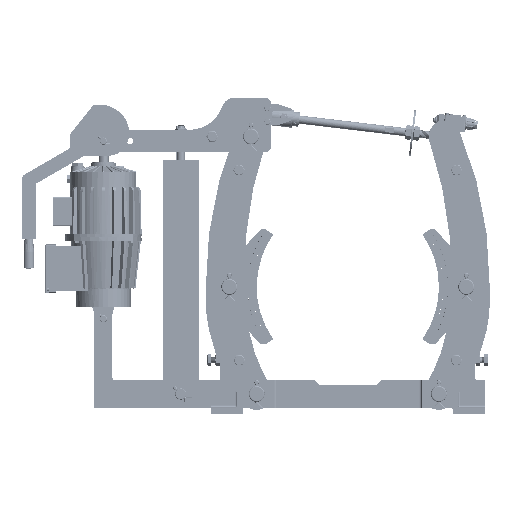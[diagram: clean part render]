
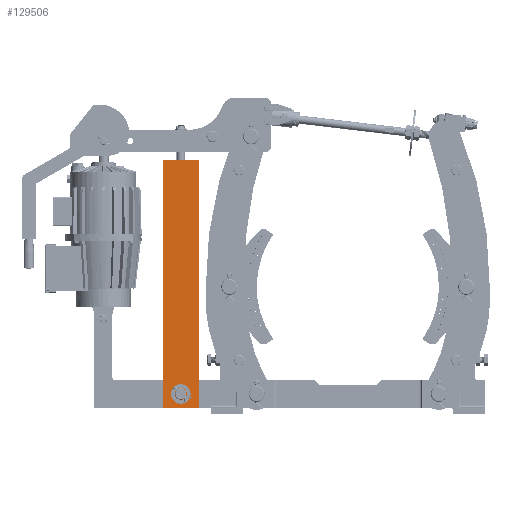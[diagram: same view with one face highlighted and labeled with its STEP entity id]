
A CAD part, left-side view. The second image highlights one B-rep face of the part: STEP entity #129506.
In plain terms, the highlighted planar face has unit normal (-1, 0, 0).
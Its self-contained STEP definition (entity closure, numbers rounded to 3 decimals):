
#129345=DIRECTION('',(0.,-1.,0.));
#129346=VECTOR('',#129345,80.);
#129347=CARTESIAN_POINT('',(-115.,706.503,559.));
#129348=LINE('',#129347,#129346);
#129352=DIRECTION('',(0.,0.,-1.));
#129353=VECTOR('',#129352,544.);
#129354=CARTESIAN_POINT('',(-115.,626.503,559.));
#129355=LINE('',#129354,#129353);
#129359=DIRECTION('',(0.,1.,0.));
#129360=VECTOR('',#129359,80.);
#129361=CARTESIAN_POINT('',(-115.,626.503,15.));
#129362=LINE('',#129361,#129360);
#129366=DIRECTION('',(0.,0.,1.));
#129367=VECTOR('',#129366,544.);
#129368=CARTESIAN_POINT('',(-115.,706.503,15.));
#129369=LINE('',#129368,#129367);
#129373=CARTESIAN_POINT('',(-115.,666.503,57.5));
#129374=CARTESIAN_POINT('',(-115.,666.889,57.5));
#129375=CARTESIAN_POINT('',(-115.,667.658,57.464));
#129376=CARTESIAN_POINT('',(-115.,668.803,57.305));
#129377=CARTESIAN_POINT('',(-115.,669.929,57.04));
#129378=CARTESIAN_POINT('',(-115.,671.024,56.673));
#129379=CARTESIAN_POINT('',(-115.,672.083,56.205));
#129380=CARTESIAN_POINT('',(-115.,673.094,55.642));
#129381=CARTESIAN_POINT('',(-115.,674.048,54.988));
#129382=CARTESIAN_POINT('',(-115.,674.938,54.249));
#129383=CARTESIAN_POINT('',(-115.,675.755,53.431));
#129384=CARTESIAN_POINT('',(-115.,676.493,52.542));
#129385=CARTESIAN_POINT('',(-115.,677.147,51.588));
#129386=CARTESIAN_POINT('',(-115.,677.709,50.578));
#129387=CARTESIAN_POINT('',(-115.,678.176,49.52));
#129388=CARTESIAN_POINT('',(-115.,678.543,48.425));
#129389=CARTESIAN_POINT('',(-115.,678.807,47.301));
#129390=CARTESIAN_POINT('',(-115.,678.967,46.155));
#129391=CARTESIAN_POINT('',(-115.,679.003,45.386));
#129392=CARTESIAN_POINT('',(-115.,679.003,45.));
#129397=CARTESIAN_POINT('',(-115.,679.003,45.));
#129398=CARTESIAN_POINT('',(-115.,679.003,44.614));
#129399=CARTESIAN_POINT('',(-115.,678.967,43.845));
#129400=CARTESIAN_POINT('',(-115.,678.807,42.699));
#129401=CARTESIAN_POINT('',(-115.,678.543,41.574));
#129402=CARTESIAN_POINT('',(-115.,678.175,40.478));
#129403=CARTESIAN_POINT('',(-115.,677.708,39.419));
#129404=CARTESIAN_POINT('',(-115.,677.145,38.409));
#129405=CARTESIAN_POINT('',(-115.,676.491,37.454));
#129406=CARTESIAN_POINT('',(-115.,675.752,36.565));
#129407=CARTESIAN_POINT('',(-115.,674.934,35.748));
#129408=CARTESIAN_POINT('',(-115.,674.045,35.009));
#129409=CARTESIAN_POINT('',(-115.,673.091,34.356));
#129410=CARTESIAN_POINT('',(-115.,672.081,33.794));
#129411=CARTESIAN_POINT('',(-115.,671.023,33.327));
#129412=CARTESIAN_POINT('',(-115.,669.928,32.96));
#129413=CARTESIAN_POINT('',(-115.,668.804,32.695));
#129414=CARTESIAN_POINT('',(-115.,667.658,32.536));
#129415=CARTESIAN_POINT('',(-115.,666.889,32.5));
#129416=CARTESIAN_POINT('',(-115.,666.503,32.5));
#129421=CARTESIAN_POINT('',(-115.,666.503,32.5));
#129422=CARTESIAN_POINT('',(-115.,666.117,32.5));
#129423=CARTESIAN_POINT('',(-115.,665.348,32.536));
#129424=CARTESIAN_POINT('',(-115.,664.202,32.695));
#129425=CARTESIAN_POINT('',(-115.,663.077,32.96));
#129426=CARTESIAN_POINT('',(-115.,661.981,33.327));
#129427=CARTESIAN_POINT('',(-115.,660.922,33.795));
#129428=CARTESIAN_POINT('',(-115.,659.911,34.358));
#129429=CARTESIAN_POINT('',(-115.,658.957,35.012));
#129430=CARTESIAN_POINT('',(-115.,658.068,35.751));
#129431=CARTESIAN_POINT('',(-115.,657.25,36.569));
#129432=CARTESIAN_POINT('',(-115.,656.512,37.458));
#129433=CARTESIAN_POINT('',(-115.,655.859,38.412));
#129434=CARTESIAN_POINT('',(-115.,655.296,39.422));
#129435=CARTESIAN_POINT('',(-115.,654.83,40.48));
#129436=CARTESIAN_POINT('',(-115.,654.463,41.575));
#129437=CARTESIAN_POINT('',(-115.,654.198,42.699));
#129438=CARTESIAN_POINT('',(-115.,654.038,43.845));
#129439=CARTESIAN_POINT('',(-115.,654.003,44.614));
#129440=CARTESIAN_POINT('',(-115.,654.003,45.));
#129445=CARTESIAN_POINT('',(-115.,654.003,45.));
#129446=CARTESIAN_POINT('',(-115.,654.003,45.386));
#129447=CARTESIAN_POINT('',(-115.,654.038,46.155));
#129448=CARTESIAN_POINT('',(-115.,654.198,47.301));
#129449=CARTESIAN_POINT('',(-115.,654.463,48.426));
#129450=CARTESIAN_POINT('',(-115.,654.83,49.522));
#129451=CARTESIAN_POINT('',(-115.,655.298,50.581));
#129452=CARTESIAN_POINT('',(-115.,655.861,51.591));
#129453=CARTESIAN_POINT('',(-115.,656.515,52.546));
#129454=CARTESIAN_POINT('',(-115.,657.254,53.435));
#129455=CARTESIAN_POINT('',(-115.,658.071,54.252));
#129456=CARTESIAN_POINT('',(-115.,658.961,54.991));
#129457=CARTESIAN_POINT('',(-115.,659.915,55.644));
#129458=CARTESIAN_POINT('',(-115.,660.925,56.206));
#129459=CARTESIAN_POINT('',(-115.,661.983,56.673));
#129460=CARTESIAN_POINT('',(-115.,663.077,57.04));
#129461=CARTESIAN_POINT('',(-115.,664.202,57.305));
#129462=CARTESIAN_POINT('',(-115.,665.347,57.464));
#129463=CARTESIAN_POINT('',(-115.,666.116,57.5));
#129464=CARTESIAN_POINT('',(-115.,666.503,57.5));
#129469=CARTESIAN_POINT('',(-115.,706.503,559.));
#129470=CARTESIAN_POINT('',(-115.,626.503,559.));
#129471=VERTEX_POINT('',#129469);
#129472=VERTEX_POINT('',#129470);
#129473=CARTESIAN_POINT('',(-115.,626.503,15.));
#129474=VERTEX_POINT('',#129473);
#129475=CARTESIAN_POINT('',(-115.,706.503,15.));
#129476=VERTEX_POINT('',#129475);
#129477=VERTEX_POINT('',#129373);
#129478=VERTEX_POINT('',#129392);
#129479=VERTEX_POINT('',#129416);
#129480=VERTEX_POINT('',#129440);
#129481=CARTESIAN_POINT('',(-115.,666.503,287.));
#129482=DIRECTION('',(1.,0.,0.));
#129483=DIRECTION('',(0.,0.,-1.));
#129484=AXIS2_PLACEMENT_3D('',#129481,#129482,#129483);
#129485=PLANE('',#129484);
#129487=ORIENTED_EDGE('',*,*,#129486,.T.);
#129489=ORIENTED_EDGE('',*,*,#129488,.T.);
#129491=ORIENTED_EDGE('',*,*,#129490,.T.);
#129493=ORIENTED_EDGE('',*,*,#129492,.T.);
#129494=EDGE_LOOP('',(#129487,#129489,#129491,#129493));
#129495=FACE_OUTER_BOUND('',#129494,.F.);
#129497=ORIENTED_EDGE('',*,*,#129496,.T.);
#129499=ORIENTED_EDGE('',*,*,#129498,.T.);
#129501=ORIENTED_EDGE('',*,*,#129500,.T.);
#129503=ORIENTED_EDGE('',*,*,#129502,.T.);
#129504=EDGE_LOOP('',(#129497,#129499,#129501,#129503));
#129505=FACE_BOUND('',#129504,.F.);
#129506=ADVANCED_FACE('',(#129495,#129505),#129485,.F.);
#129393=B_SPLINE_CURVE_WITH_KNOTS('',3,(#129373,#129374,#129375,#129376,#129377,
#129378,#129379,#129380,#129381,#129382,#129383,#129384,#129385,#129386,#129387,
#129388,#129389,#129390,#129391,#129392),.UNSPECIFIED.,.F.,.F.,(4,1,1,1,1,1,1,1,
1,1,1,1,1,1,1,1,1,4),(0.,0.059,0.118,
0.176,0.235,0.294,0.353,
0.412,0.471,0.529,0.588,
0.647,0.706,0.765,0.824,
0.882,0.941,1.),.UNSPECIFIED.);
#129417=B_SPLINE_CURVE_WITH_KNOTS('',3,(#129397,#129398,#129399,#129400,#129401,
#129402,#129403,#129404,#129405,#129406,#129407,#129408,#129409,#129410,#129411,
#129412,#129413,#129414,#129415,#129416),.UNSPECIFIED.,.F.,.F.,(4,1,1,1,1,1,1,1,
1,1,1,1,1,1,1,1,1,4),(0.,0.059,0.118,
0.176,0.235,0.294,0.353,
0.412,0.471,0.529,0.588,
0.647,0.706,0.765,0.824,
0.882,0.941,1.),.UNSPECIFIED.);
#129441=B_SPLINE_CURVE_WITH_KNOTS('',3,(#129421,#129422,#129423,#129424,#129425,
#129426,#129427,#129428,#129429,#129430,#129431,#129432,#129433,#129434,#129435,
#129436,#129437,#129438,#129439,#129440),.UNSPECIFIED.,.F.,.F.,(4,1,1,1,1,1,1,1,
1,1,1,1,1,1,1,1,1,4),(0.,0.059,0.118,
0.176,0.235,0.294,0.353,
0.412,0.471,0.529,0.588,
0.647,0.706,0.765,0.824,
0.882,0.941,1.),.UNSPECIFIED.);
#129465=B_SPLINE_CURVE_WITH_KNOTS('',3,(#129445,#129446,#129447,#129448,#129449,
#129450,#129451,#129452,#129453,#129454,#129455,#129456,#129457,#129458,#129459,
#129460,#129461,#129462,#129463,#129464),.UNSPECIFIED.,.F.,.F.,(4,1,1,1,1,1,1,1,
1,1,1,1,1,1,1,1,1,4),(0.,0.059,0.118,
0.176,0.235,0.294,0.353,
0.412,0.471,0.529,0.588,
0.647,0.706,0.765,0.824,
0.882,0.941,1.),.UNSPECIFIED.);
#129486=EDGE_CURVE('',#129471,#129472,#129348,.T.);
#129488=EDGE_CURVE('',#129472,#129474,#129355,.T.);
#129490=EDGE_CURVE('',#129474,#129476,#129362,.T.);
#129492=EDGE_CURVE('',#129476,#129471,#129369,.T.);
#129496=EDGE_CURVE('',#129477,#129478,#129393,.T.);
#129498=EDGE_CURVE('',#129478,#129479,#129417,.T.);
#129500=EDGE_CURVE('',#129479,#129480,#129441,.T.);
#129502=EDGE_CURVE('',#129480,#129477,#129465,.T.);
